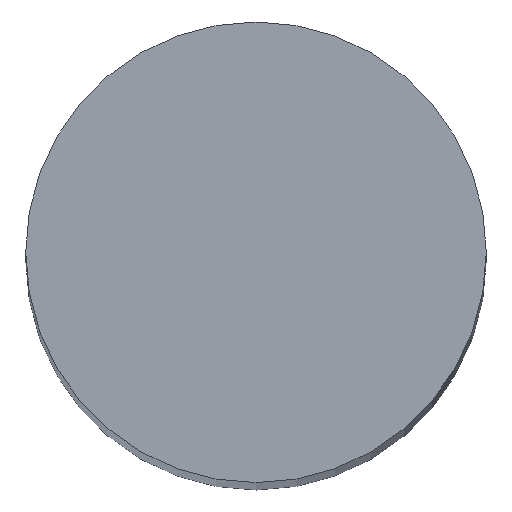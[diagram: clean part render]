
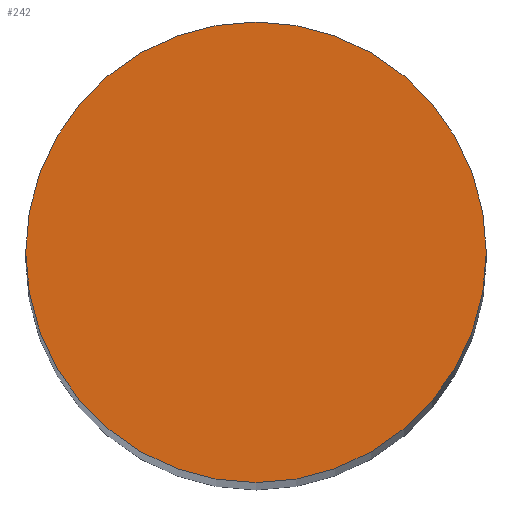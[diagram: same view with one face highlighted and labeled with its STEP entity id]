
A CAD part, top view. The second image highlights one B-rep face of the part: STEP entity #242.
In plain terms, the highlighted planar face has unit normal (0, 0, 1).
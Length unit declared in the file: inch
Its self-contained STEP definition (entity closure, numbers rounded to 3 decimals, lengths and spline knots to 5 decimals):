
#183=CARTESIAN_POINT('',(0.0,-0.07875,1.9685));
#184=VERTEX_POINT('',#183);
#191=CARTESIAN_POINT('',(0.0,0.07875,1.9685));
#192=VERTEX_POINT('',#191);
#193=CARTESIAN_POINT('',(0.0,0.0,1.9685));
#194=DIRECTION('',(0.0,-0.0,-1.0));
#195=DIRECTION('',(0.0,1.0,-0.0));
#196=AXIS2_PLACEMENT_3D('',#193,#194,#195);
#197=CIRCLE('',#196,0.07875);
#198=EDGE_CURVE('no 1609',#184,#192,#197,.T.);
#218=CARTESIAN_POINT('',(0.0,0.0,1.9685));
#219=DIRECTION('',(0.0,-0.0,-1.0));
#220=DIRECTION('',(0.0,1.0,-0.0));
#221=AXIS2_PLACEMENT_3D('',#218,#219,#220);
#222=CIRCLE('',#221,0.07875);
#223=EDGE_CURVE('no 1613',#192,#184,#222,.T.);
#233=ORIENTED_EDGE('',*,*,#198,.F.);
#234=ORIENTED_EDGE('',*,*,#223,.F.);
#235=EDGE_LOOP('',(#233,#234));
#236=FACE_OUTER_BOUND('',#235,.T.);
#237=CARTESIAN_POINT('',(0.07875,0.0,1.9685));
#238=DIRECTION('',(0.0,0.0,1.0));
#239=DIRECTION('',(0.0,-1.0,0.0));
#240=AXIS2_PLACEMENT_3D('',#237,#238,#239);
#241=PLANE('',#240);
#242=ADVANCED_FACE('no 1737',(#236),#241,.T.);
